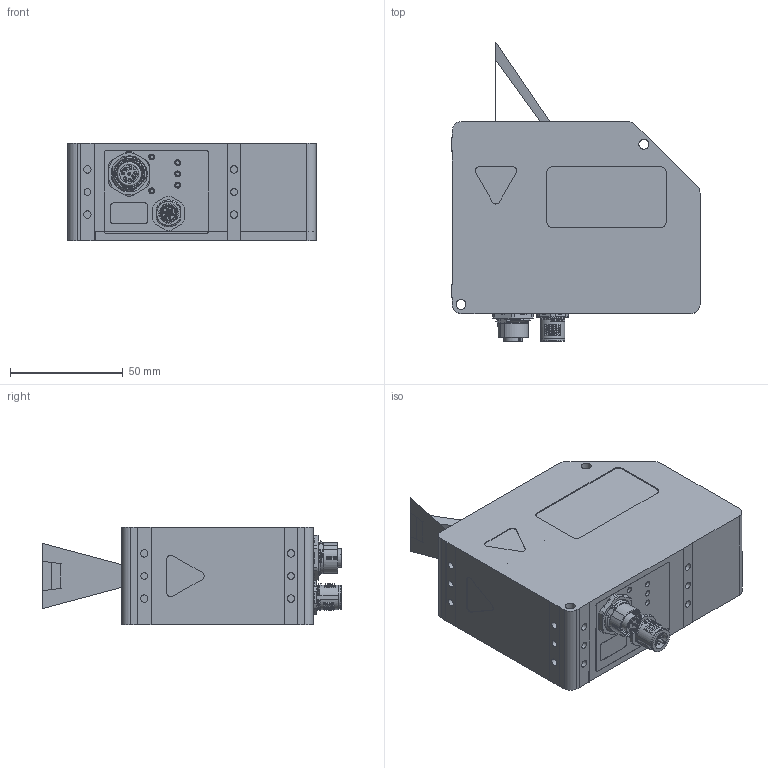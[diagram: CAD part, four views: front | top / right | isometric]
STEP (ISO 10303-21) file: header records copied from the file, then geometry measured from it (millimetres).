
FILE_DESCRIPTION(/* description */ (''),/* implementation_level */ '2;1');
FILE_NAME(/* name */ 'C6-S7-1280-CS-35-12-31-SX-1G-XXX-XX_Public.iam.stp',/* time_stamp */ '2025-06-10T11:44:58+02:00',/* author */ ('AT'),/* organization */ ('Automation Technology GmbH'),/* preprocessor_version */ 'ST-DEVELOPER v20',/* originating_system */ 'Autodesk Inventor 2024',/* authorisation */ '');
FILE_SCHEMA (('AUTOMOTIVE_DESIGN { 1 0 10303 214 3 1 1 }'));
Products named in the file (17): C6-S7-1280-CS-35-12-31-SX-1G-XXX-XX_Public; SACC-DSI-MS-17CON-M12 SCO SH_1437119-01; SACC-DSI-MS-17CON-M12 SCO SH_1437119_Stecker; SACC-DSI-MS-17CON-M12 SCO SH_1437119_Mutter; SACC-DSI-MS-17CON-M12 SCO SH_1437119_Pins; SACC-DSI-MS-17CON-M12 SCO SH_1437119_Kunststoffeinsatz; SACC-DSI-FS-8CON-L180_SCO SH_1553860-01; SACC-DSI-FS-8CON-L180_SCO SH_1553860_Stecker; SACC-DSI-FS-8CON-L180_SCO SH_1553860_Mutter; SACC-DSI-FS-8CON-L180_SCO SH_1553860_Kunststoffeinsatz; Screw GB/T 2672 M2,5 x 6; 1292.6001; 202202600-001; 202202600-002; 202202600-00X; 202190016-007; C6-S7-1280-CS-35-12-31-SX-1G-XXX-XX_Strahlengang
Assembly tree (26 placements, depth 3):
  C6-S7-1280-CS-35-12-31-SX-1G-XXX-XX_Public
    SACC-DSI-MS-17CON-M12 SCO SH_1437119-01
      SACC-DSI-MS-17CON-M12 SCO SH_1437119_Stecker
      SACC-DSI-MS-17CON-M12 SCO SH_1437119_Mutter
      SACC-DSI-MS-17CON-M12 SCO SH_1437119_Pins
      SACC-DSI-MS-17CON-M12 SCO SH_1437119_Kunststoffeinsatz
    SACC-DSI-FS-8CON-L180_SCO SH_1553860-01
      SACC-DSI-FS-8CON-L180_SCO SH_1553860_Stecker
      SACC-DSI-FS-8CON-L180_SCO SH_1553860_Mutter
      SACC-DSI-FS-8CON-L180_SCO SH_1553860_Kunststoffeinsatz
    Screw GB/T 2672 M2,5 x 6  x7
    1292.6001  x5
    202202600-001
    202202600-002
    202202600-00X
    202190016-007
    C6-S7-1280-CS-35-12-31-SX-1G-XXX-XX_Strahlengang
Bounding box: 109.9 x 132.3 x 43 mm (x, y, z)
Volume: 107023.4 mm3; surface area: 84510.6 mm2
Topology: 41 solids, 42 shells, 1833 faces, 4516 edges, 2882 vertices
Faces by surface type: plane 773, cylinder 694, bspline 181, cone 90, torus 54, sphere 41
Full cylindrical faces by diameter (mm): 0.217 x1, 0.6 x25, 0.63 x34, 0.9 x8, 1 x10, 1.1 x17, 1.2 x17, 1.5 x5, 1.567 x7, 1.6 x5, 2 x14, 2.013 x24, 2.208 x7, 2.4 x7, 2.5 x7, 2.6 x12, 3 x4, 3.242 x8, 4.4 x2, 5 x7, 5.2 x7, 7.7 x1, 8.25 x2, 8.3 x1, 8.7 x1, 10.5 x1, 10.7 x3, 10.917 x2, 12 x1, 12.2 x1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
Entity records: 82765 total; most frequent: CARTESIAN_POINT 44752, ORIENTED_EDGE 7692, DIRECTION 7416, EDGE_CURVE 3848, AXIS2_PLACEMENT_3D 2668, VERTEX_POINT 2556, LINE 2080, VECTOR 2080
